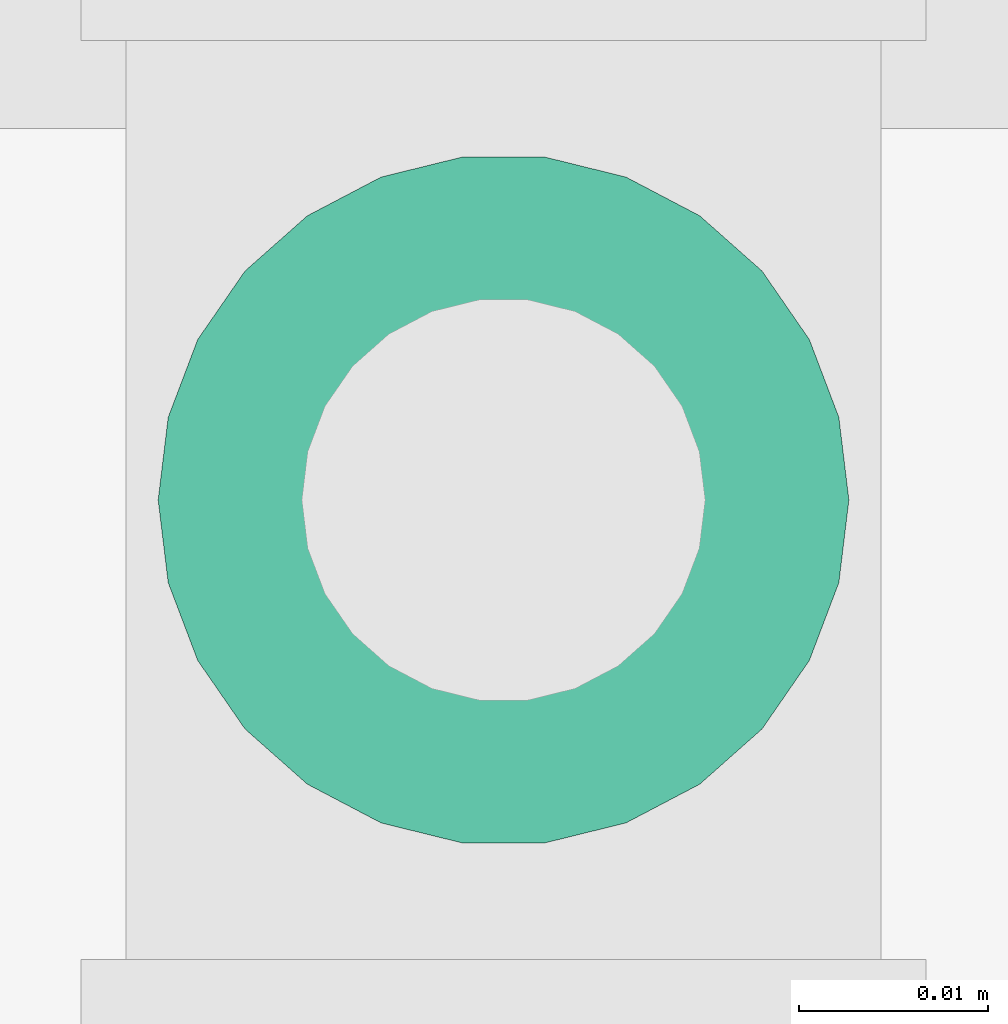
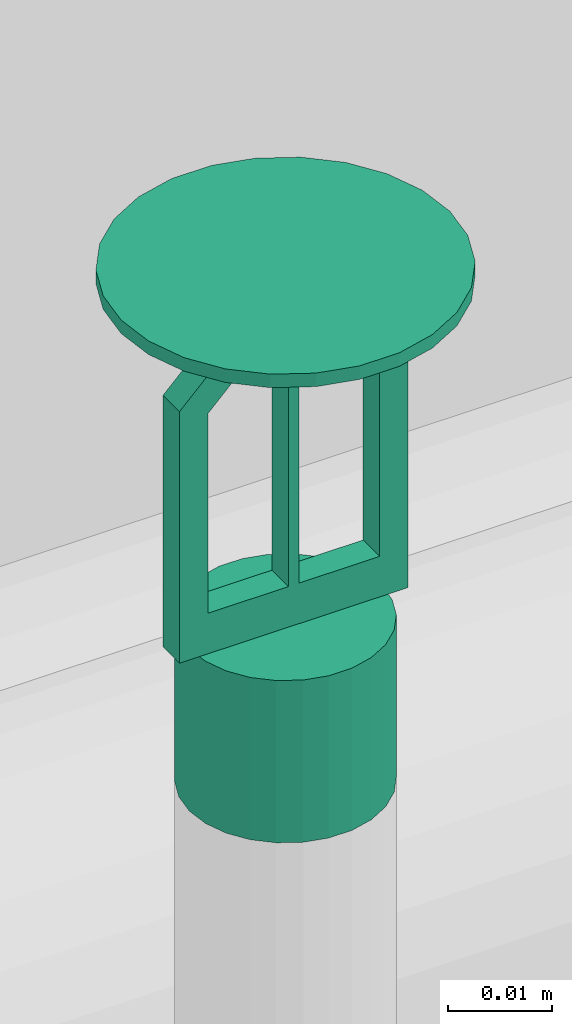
# One storey, part 94 of 108: 1 fire suppression terminal.
"""IFC4 building model written with IfcOpenShell, lengths in feet."""

from ifc_helpers import new_model, entity, si_unit, converted_unit, derived_unit, direction, frame, frame_2d, origin, place, context, subcontext, project, spatial, polyline, circle, outline, extrude, source, transform, mapped, material, type_object, type_shapes, element, save


model = new_model("IFC4")

# Units and contexts
model_context = context("Model", 3, precision=0.0001, world=origin(), true_north=direction((6.12303176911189e-17, 1.0)))
body_context = subcontext(model_context, "Body", "Model", "MODEL_VIEW")
ifc_project = project(units=[converted_unit("LENGTHUNIT", "FOOT", entity("IfcRatioMeasure", 0.3048), si_unit("LENGTHUNIT", "METRE"), dimensions=[1, 0, 0, 0, 0, 0, 0]), converted_unit("AREAUNIT", "SQUARE FOOT", entity("IfcRatioMeasure", 0.09290304), si_unit("AREAUNIT", "SQUARE_METRE"), dimensions=[2, 0, 0, 0, 0, 0, 0]), converted_unit("VOLUMEUNIT", "CUBIC FOOT", entity("IfcRatioMeasure", 0.028316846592), si_unit("VOLUMEUNIT", "CUBIC_METRE"), dimensions=[3, 0, 0, 0, 0, 0, 0]), converted_unit("PLANEANGLEUNIT", "DEGREE", entity("IfcRatioMeasure", 0.0174532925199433), si_unit("PLANEANGLEUNIT", "RADIAN"), dimensions=[0, 0, 0, 0, 0, 0, 0]), si_unit("MASSUNIT", "GRAM", prefix="KILO"), derived_unit("MASSDENSITYUNIT", [(si_unit("MASSUNIT", "GRAM", prefix="KILO"), 1), (si_unit("LENGTHUNIT", "METRE"), -3)]), si_unit("TIMEUNIT", "SECOND"), si_unit("FREQUENCYUNIT", "HERTZ"), si_unit("THERMODYNAMICTEMPERATUREUNIT", "DEGREE_CELSIUS"), derived_unit("THERMALTRANSMITTANCEUNIT", [(si_unit("MASSUNIT", "GRAM", prefix="KILO"), 1), (si_unit("THERMODYNAMICTEMPERATUREUNIT", "KELVIN"), -1), (si_unit("TIMEUNIT", "SECOND"), -3)]), derived_unit("VOLUMETRICFLOWRATEUNIT", [(si_unit("LENGTHUNIT", "METRE"), 3), (si_unit("TIMEUNIT", "SECOND"), -1)]), si_unit("ELECTRICCURRENTUNIT", "AMPERE"), si_unit("ELECTRICVOLTAGEUNIT", "VOLT"), si_unit("POWERUNIT", "WATT"), si_unit("FORCEUNIT", "NEWTON"), si_unit("ILLUMINANCEUNIT", "LUX"), si_unit("LUMINOUSFLUXUNIT", "LUMEN"), si_unit("LUMINOUSINTENSITYUNIT", "CANDELA"), derived_unit("USERDEFINED", [(si_unit("MASSUNIT", "GRAM", prefix="KILO"), -1), (si_unit("LENGTHUNIT", "METRE"), -2), (si_unit("TIMEUNIT", "SECOND"), 3), (si_unit("LUMINOUSFLUXUNIT", "LUMEN"), 1)]), derived_unit("LINEARVELOCITYUNIT", [(si_unit("LENGTHUNIT", "METRE"), 1), (si_unit("TIMEUNIT", "SECOND"), -1)]), si_unit("PRESSUREUNIT", "PASCAL"), derived_unit("USERDEFINED", [(si_unit("LENGTHUNIT", "METRE"), -2), (si_unit("MASSUNIT", "GRAM", prefix="KILO"), 1), (si_unit("TIMEUNIT", "SECOND"), -2)])], contexts=[model_context])

# Site, building, storey
site_placement = place(None, origin())
site = spatial("IfcSite", under=ifc_project, at=site_placement, Name="Default", CompositionType="ELEMENT")
building_placement = place(site_placement, origin())
building = spatial("IfcBuilding", under=site, at=building_placement, CompositionType="ELEMENT")
storey_placement = place(building_placement, frame((0.0, 0.0, 168.0)))
storey = spatial("IfcBuildingStorey", under=building, at=storey_placement, Name="Level 15", CompositionType="ELEMENT", Elevation=168.0)

# Fire suppression terminal
ifc_material = material(Name="Default", Category="Miscellaneous")
fire_suppression_terminal_type = type_object("IfcFireSuppressionTerminalType", Name="Standard", PredefinedType="NOTDEFINED", material=ifc_material)
shared_shape = source(origin(), body_context, "Body", "SweptSolid", [
    extrude(outline(polyline([(-0.0416666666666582, -0.0872160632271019), (0.0416666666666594, -0.0872160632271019), (0.0416666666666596, 0.00964585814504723), (0.0167345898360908, 0.0345779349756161), (0.0167345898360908, 0.0429922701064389), (-0.0167345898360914, 0.0429922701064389), (-0.0167345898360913, 0.0345779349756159), (-0.0416666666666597, 0.00964585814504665), (-0.0416666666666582, -0.0872160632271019)]), holes=[polyline([(0.00195312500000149, -0.0715910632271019), (0.00195312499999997, 0.0261635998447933), (0.0104175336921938, 0.0261635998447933), (0.0312499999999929, 0.00533113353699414), (0.0312499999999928, -0.0715910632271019), (0.00195312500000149, -0.0715910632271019)]), polyline([(-0.0019531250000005, -0.0715910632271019), (-0.0312499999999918, -0.0715910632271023), (-0.031249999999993, 0.00533113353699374), (-0.0104175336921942, 0.0261635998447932), (-0.00195312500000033, 0.0261635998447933), (-0.0019531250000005, -0.0715910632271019)])]), frame((0.0, -0.00520833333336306, 0.14971606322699), z_axis=(0.0, 1.0, 0.0), x_axis=(-1.0, 0.0, 0.0)), (0.0, 0.0, 1.0), 0.0104166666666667),
    extrude(circle(Radius=0.035, at=frame_2d((-2.76586283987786e-18, -4.44862351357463e-17), x_axis=(1.0, 0.0))), frame((0.0, 0.0, 0.0), z_axis=(0.0, 0.0, 1.0), x_axis=(-1.0, 0.0, 0.0)), (0.0, 0.0, 1.0), 0.0624999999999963),
    extrude(circle(Radius=0.0598958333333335, at=frame_2d((5.01992838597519e-20, -7.61297178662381e-17), x_axis=(1.0, 0.0))), frame((0.0, 0.0, 0.192708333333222), z_axis=(0.0, 0.0, 1.0), x_axis=(-1.0, 0.0, 0.0)), (0.0, 0.0, 1.0), 0.00520833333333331),
])
type_shapes(fire_suppression_terminal_type, [shared_shape])
fire_suppression_terminal_placement = place(storey_placement, frame((-50.7973802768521, 10.2684196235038, 9.83333333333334)))
element("IfcFireSuppressionTerminal", 1, at=fire_suppression_terminal_placement, inside=storey, type_object=fire_suppression_terminal_type, material=ifc_material, Name="Upright:Standard", ObjectType="Upright:Standard", PredefinedType="NOTDEFINED", context=body_context, shape_type="MappedRepresentation", body=[
    mapped(shared_shape, transform((0.0, 0.0, 0.0), scale=1.0)),
])

save(model, "model.ifc")
